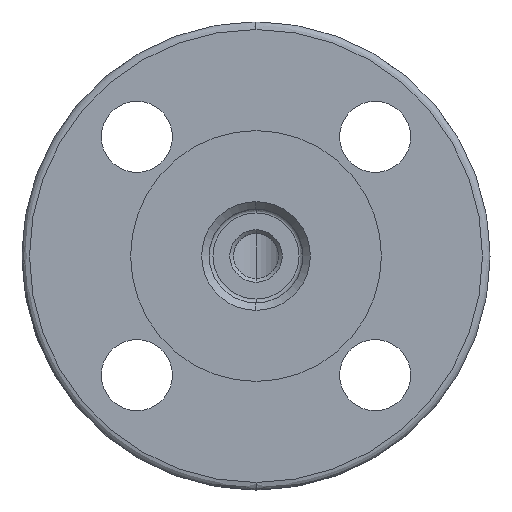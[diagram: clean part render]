
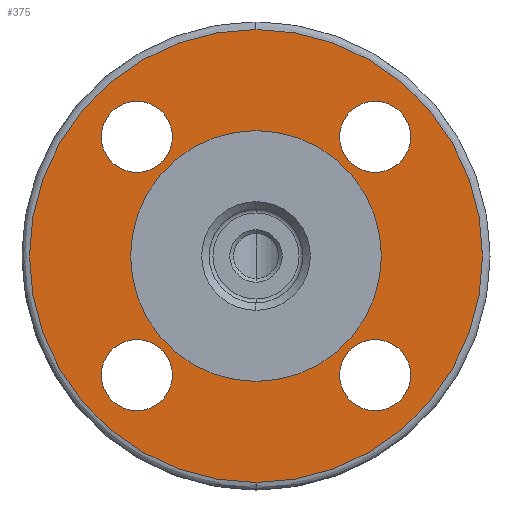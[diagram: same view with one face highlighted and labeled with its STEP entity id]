
A CAD part, left-side view. The second image highlights one B-rep face of the part: STEP entity #375.
In plain terms, the highlighted planar face has unit normal (-1, 0, 0).
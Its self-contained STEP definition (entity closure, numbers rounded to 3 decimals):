
#375=ADVANCED_FACE('',(#1446,#1447,#1448,#1449,#1450,#1451),#1445,.T.);
#1445=PLANE('',#5068);
#1446=FACE_OUTER_BOUND('',#5069,.T.);
#1447=FACE_BOUND('',#5070,.T.);
#1448=FACE_BOUND('',#5071,.T.);
#1449=FACE_BOUND('',#5072,.T.);
#1450=FACE_BOUND('',#5073,.T.);
#1451=FACE_BOUND('',#5074,.T.);
#5065=CARTESIAN_POINT('',(-64.5,-114.789,-131.));
#5066=DIRECTION('',(-1.,0.,0.));
#5067=DIRECTION('',(0.,0.,1.));
#5068=AXIS2_PLACEMENT_3D('',#5065,#5066,#5067);
#5069=EDGE_LOOP('',(#8396,#8397));
#5070=EDGE_LOOP('',(#8398,#8399));
#5071=EDGE_LOOP('',(#8400,#8401));
#5072=EDGE_LOOP('',(#8402,#8403));
#5073=EDGE_LOOP('',(#8404,#8405));
#5074=EDGE_LOOP('',(#8406,#8407));
#8396=ORIENTED_EDGE('',*,*,#9804,.T.);
#8397=ORIENTED_EDGE('',*,*,#9805,.T.);
#8398=ORIENTED_EDGE('',*,*,#9806,.F.);
#8399=ORIENTED_EDGE('',*,*,#9807,.F.);
#8400=ORIENTED_EDGE('',*,*,#9808,.F.);
#8401=ORIENTED_EDGE('',*,*,#9809,.F.);
#8402=ORIENTED_EDGE('',*,*,#9810,.F.);
#8403=ORIENTED_EDGE('',*,*,#9811,.F.);
#8404=ORIENTED_EDGE('',*,*,#9812,.F.);
#8405=ORIENTED_EDGE('',*,*,#9813,.F.);
#8406=ORIENTED_EDGE('',*,*,#9814,.F.);
#8407=ORIENTED_EDGE('',*,*,#9815,.F.);
#9804=EDGE_CURVE('',#11937,#11938,#11939,.T.);
#9805=EDGE_CURVE('',#11938,#11937,#11945,.T.);
#9806=EDGE_CURVE('',#11951,#11952,#11953,.T.);
#9807=EDGE_CURVE('',#11952,#11951,#11959,.T.);
#9808=EDGE_CURVE('',#11965,#11966,#11967,.T.);
#9809=EDGE_CURVE('',#11966,#11965,#11973,.T.);
#9810=EDGE_CURVE('',#11979,#11980,#11981,.T.);
#9811=EDGE_CURVE('',#11980,#11979,#11987,.T.);
#9812=EDGE_CURVE('',#11993,#11994,#11995,.T.);
#9813=EDGE_CURVE('',#11994,#11993,#12001,.T.);
#9814=EDGE_CURVE('',#12007,#12008,#12009,.T.);
#9815=EDGE_CURVE('',#12008,#12007,#12015,.T.);
#11937=VERTEX_POINT('',#16736);
#11938=VERTEX_POINT('',#16737);
#11939=CIRCLE('',#16741,60.5);
#11945=CIRCLE('',#16745,60.5);
#11951=VERTEX_POINT('',#16746);
#11952=VERTEX_POINT('',#16747);
#11953=CIRCLE('',#16751,9.5);
#11959=CIRCLE('',#16755,9.5);
#11965=VERTEX_POINT('',#16756);
#11966=VERTEX_POINT('',#16757);
#11967=CIRCLE('',#16761,9.5);
#11973=CIRCLE('',#16765,9.5);
#11979=VERTEX_POINT('',#16766);
#11980=VERTEX_POINT('',#16767);
#11981=CIRCLE('',#16771,9.5);
#11987=CIRCLE('',#16775,9.5);
#11993=VERTEX_POINT('',#16776);
#11994=VERTEX_POINT('',#16777);
#11995=CIRCLE('',#16781,9.5);
#12001=CIRCLE('',#16785,9.5);
#12007=VERTEX_POINT('',#16786);
#12008=VERTEX_POINT('',#16787);
#12009=CIRCLE('',#16791,33.5);
#12015=CIRCLE('',#16795,33.5);
#16736=CARTESIAN_POINT('',(-64.5,0.,60.5));
#16737=CARTESIAN_POINT('',(-64.5,0.,-60.5));
#16738=CARTESIAN_POINT('',(-64.5,0.,0.));
#16739=DIRECTION('',(-1.,0.,0.));
#16740=DIRECTION('',(0.,0.,1.));
#16741=AXIS2_PLACEMENT_3D('',#16738,#16739,#16740);
#16742=CARTESIAN_POINT('',(-64.5,0.,0.));
#16743=DIRECTION('',(-1.,0.,0.));
#16744=DIRECTION('',(0.,0.,1.));
#16745=AXIS2_PLACEMENT_3D('',#16742,#16743,#16744);
#16746=CARTESIAN_POINT('',(-64.5,-31.82,22.32));
#16747=CARTESIAN_POINT('',(-64.5,-31.82,41.32));
#16748=CARTESIAN_POINT('',(-64.5,-31.82,31.82));
#16749=DIRECTION('',(-1.,0.,0.));
#16750=DIRECTION('',(0.,0.,1.));
#16751=AXIS2_PLACEMENT_3D('',#16748,#16749,#16750);
#16752=CARTESIAN_POINT('',(-64.5,-31.82,31.82));
#16753=DIRECTION('',(-1.,0.,0.));
#16754=DIRECTION('',(0.,0.,1.));
#16755=AXIS2_PLACEMENT_3D('',#16752,#16753,#16754);
#16756=CARTESIAN_POINT('',(-64.5,-31.82,-41.32));
#16757=CARTESIAN_POINT('',(-64.5,-31.82,-22.32));
#16758=CARTESIAN_POINT('',(-64.5,-31.82,-31.82));
#16759=DIRECTION('',(-1.,0.,0.));
#16760=DIRECTION('',(0.,0.,1.));
#16761=AXIS2_PLACEMENT_3D('',#16758,#16759,#16760);
#16762=CARTESIAN_POINT('',(-64.5,-31.82,-31.82));
#16763=DIRECTION('',(-1.,0.,0.));
#16764=DIRECTION('',(0.,0.,1.));
#16765=AXIS2_PLACEMENT_3D('',#16762,#16763,#16764);
#16766=CARTESIAN_POINT('',(-64.5,31.82,-41.32));
#16767=CARTESIAN_POINT('',(-64.5,31.82,-22.32));
#16768=CARTESIAN_POINT('',(-64.5,31.82,-31.82));
#16769=DIRECTION('',(-1.,0.,0.));
#16770=DIRECTION('',(0.,0.,1.));
#16771=AXIS2_PLACEMENT_3D('',#16768,#16769,#16770);
#16772=CARTESIAN_POINT('',(-64.5,31.82,-31.82));
#16773=DIRECTION('',(-1.,0.,0.));
#16774=DIRECTION('',(0.,0.,1.));
#16775=AXIS2_PLACEMENT_3D('',#16772,#16773,#16774);
#16776=CARTESIAN_POINT('',(-64.5,31.82,22.32));
#16777=CARTESIAN_POINT('',(-64.5,31.82,41.32));
#16778=CARTESIAN_POINT('',(-64.5,31.82,31.82));
#16779=DIRECTION('',(-1.,0.,0.));
#16780=DIRECTION('',(0.,0.,1.));
#16781=AXIS2_PLACEMENT_3D('',#16778,#16779,#16780);
#16782=CARTESIAN_POINT('',(-64.5,31.82,31.82));
#16783=DIRECTION('',(-1.,0.,0.));
#16784=DIRECTION('',(0.,0.,1.));
#16785=AXIS2_PLACEMENT_3D('',#16782,#16783,#16784);
#16786=CARTESIAN_POINT('',(-64.5,0.,-33.5));
#16787=CARTESIAN_POINT('',(-64.5,0.,33.5));
#16788=CARTESIAN_POINT('',(-64.5,0.,0.));
#16789=DIRECTION('',(-1.,0.,0.));
#16790=DIRECTION('',(0.,0.,1.));
#16791=AXIS2_PLACEMENT_3D('',#16788,#16789,#16790);
#16792=CARTESIAN_POINT('',(-64.5,0.,0.));
#16793=DIRECTION('',(-1.,0.,0.));
#16794=DIRECTION('',(0.,0.,1.));
#16795=AXIS2_PLACEMENT_3D('',#16792,#16793,#16794);
